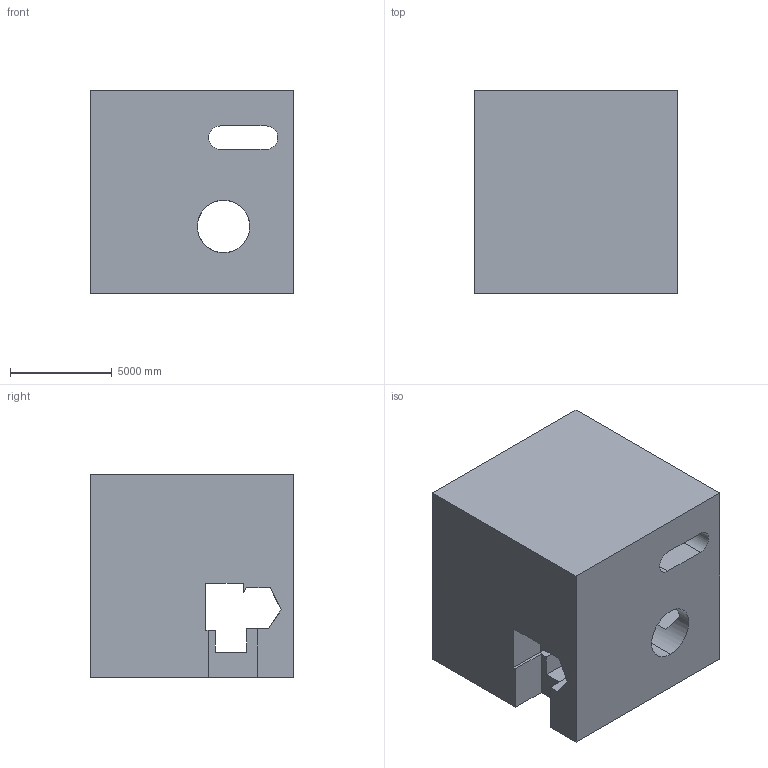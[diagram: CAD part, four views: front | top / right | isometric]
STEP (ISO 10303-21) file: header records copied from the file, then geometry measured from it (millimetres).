
FILE_DESCRIPTION (( 'STEP AP203' ), '1' );
FILE_NAME ('552.STEP', '2022-07-29T11:47:06', ( 'user' ), ( '' ), 'SwSTEP 2.0', 'SolidWorks 2021', '' );
FILE_SCHEMA (( 'CONFIG_CONTROL_DESIGN' ));
Length unit declared in the file: centimetre
Products named in the file (1): 552
Bounding box: 10000 x 10000 x 10000 mm (x, y, z)
Volume: 829807230757.8 mm3; surface area: 821736356.8 mm2
Topology: 1 solids, 1 shells, 35 faces, 108 edges, 72 vertices
Faces by surface type: plane 29, cylinder 6
Entity records: 1291 total; most frequent: CARTESIAN_POINT 234, ORIENTED_EDGE 216, DIRECTION 190, EDGE_CURVE 108, LINE 86, VECTOR 86, VERTEX_POINT 72, AXIS2_PLACEMENT_3D 52
